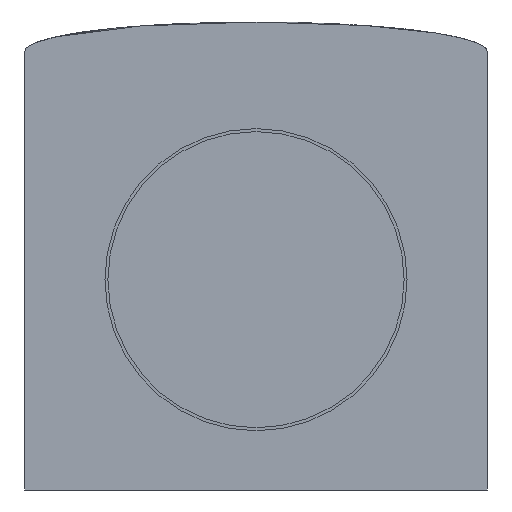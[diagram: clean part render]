
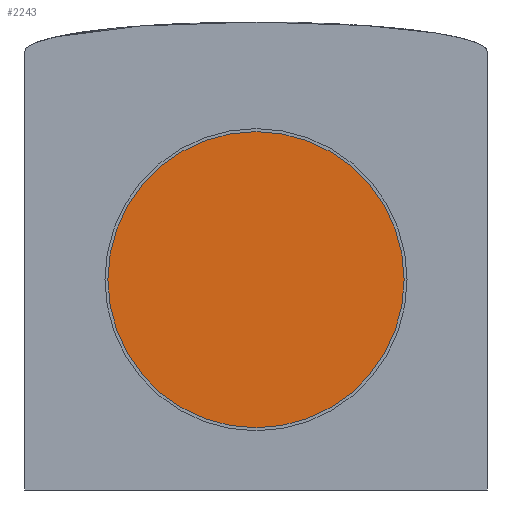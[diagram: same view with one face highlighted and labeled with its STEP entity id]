
A CAD part, front view. The second image highlights one B-rep face of the part: STEP entity #2243.
In plain terms, the highlighted planar face has unit normal (0, -1, 0).
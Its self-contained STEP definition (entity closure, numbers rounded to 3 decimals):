
#502 = ORIENTED_EDGE ( 'NONE', *, *, #7620, .F. ) ;
#1497 = DIRECTION ( 'NONE',  ( 0., 1., 0. ) ) ;
#2033 = VERTEX_POINT ( 'NONE', #9693 ) ;
#2061 = CARTESIAN_POINT ( 'NONE',  ( 0., -24., 12. ) ) ;
#2243 = ADVANCED_FACE ( 'NONE', ( #9029 ), #4891, .F. ) ;
#2672 = AXIS2_PLACEMENT_3D ( 'NONE', #8921, #3860, #9633 ) ;
#3860 = DIRECTION ( 'NONE',  ( 0., 1., 0. ) ) ;
#4598 = DIRECTION ( 'NONE',  ( 0., 1., 0. ) ) ;
#4610 = AXIS2_PLACEMENT_3D ( 'NONE', #8045, #1497, #4781 ) ;
#4781 = DIRECTION ( 'NONE',  ( 0., 0., 1. ) ) ;
#4891 = PLANE ( 'NONE',  #5120 ) ;
#5120 = AXIS2_PLACEMENT_3D ( 'NONE', #8212, #4598, #6096 ) ;
#5292 = EDGE_CURVE ( 'NONE', #7167, #2033, #6181, .T. ) ;
#6096 = DIRECTION ( 'NONE',  ( 0., 0., 1. ) ) ;
#6181 = CIRCLE ( 'NONE', #4610, 10. ) ;
#7167 = VERTEX_POINT ( 'NONE', #2061 ) ;
#7620 = EDGE_CURVE ( 'NONE', #2033, #7167, #8764, .T. ) ;
#8045 = CARTESIAN_POINT ( 'NONE',  ( 0., -24., 2. ) ) ;
#8212 = CARTESIAN_POINT ( 'NONE',  ( 0., -24., 12. ) ) ;
#8220 = EDGE_LOOP ( 'NONE', ( #9265, #502 ) ) ;
#8764 = CIRCLE ( 'NONE', #2672, 10. ) ;
#8921 = CARTESIAN_POINT ( 'NONE',  ( 0., -24., 2. ) ) ;
#9029 = FACE_OUTER_BOUND ( 'NONE', #8220, .T. ) ;
#9265 = ORIENTED_EDGE ( 'NONE', *, *, #5292, .F. ) ;
#9633 = DIRECTION ( 'NONE',  ( 0., 0., 1. ) ) ;
#9693 = CARTESIAN_POINT ( 'NONE',  ( 0., -24., -8. ) ) ;
